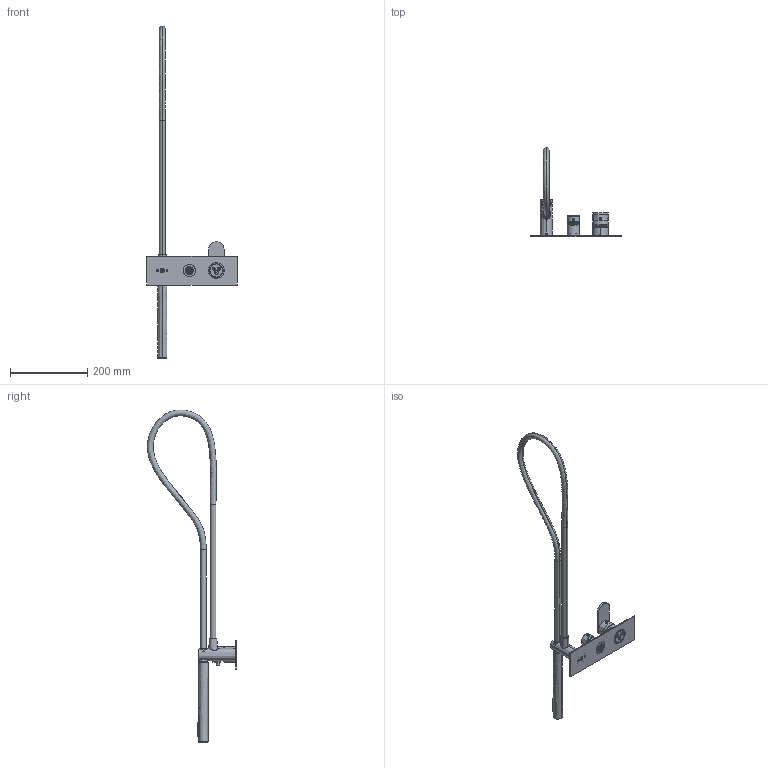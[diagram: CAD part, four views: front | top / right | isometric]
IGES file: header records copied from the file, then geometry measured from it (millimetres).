
Start section:  PTC IGES file: 79529V2.igs
Global section: file name: 79529V2.igs; native system: Creo Parametric by PTC Inc.; preprocessor: 2025443; author: carloff; organization: Unknown; date: 20261005.165501; units: millimetre
Bounding box: 235 x 230.87 x 858.74 mm (x, y, z)
Surface area: 196964.3 mm2 (no closed solid volume)
Topology: 0 solids, 0 shells, 1642 faces, 8546 edges, 8536 vertices
Faces by surface type: revolution 1043, bspline 599
